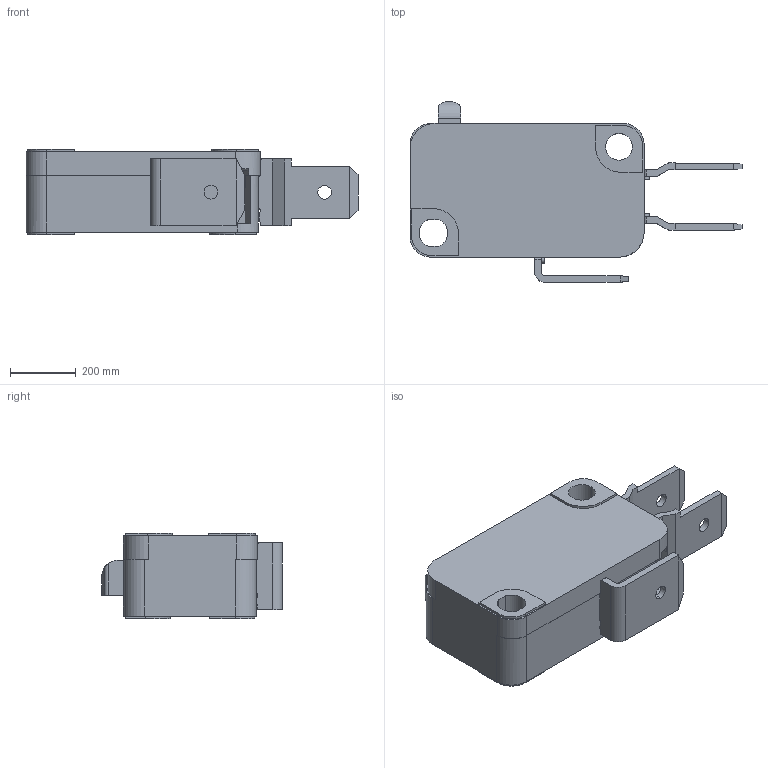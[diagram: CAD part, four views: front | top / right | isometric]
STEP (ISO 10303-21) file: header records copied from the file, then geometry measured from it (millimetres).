
FILE_DESCRIPTION((''),'2;1');
FILE_NAME('ASM0001_ASM','2016-06-02T',('Administrator'),(''),'PRO/ENGINEER BY PARAMETRIC TECHNOLOGY CORPORATION, 2012360','PRO/ENGINEER BY PARAMETRIC TECHNOLOGY CORPORATION, 2012360','');
FILE_SCHEMA(('CONFIG_CONTROL_DESIGN'));
Length unit declared in the file: inch
Products named in the file (1): ASM0001_ASM
Bounding box: 1008.38 x 548.72 x 259.08 mm (x, y, z)
Volume: 61359306.8 mm3; surface area: 2630821.4 mm2
Topology: 1 solids, 6 shells, 484 faces, 1364 edges, 891 vertices
Faces by surface type: plane 390, cylinder 86, torus 4, cone 4
Entity records: 15659 total; most frequent: CARTESIAN_POINT 2952, ORIENTED_EDGE 2728, DIRECTION 2497, EDGE_CURVE 1364, VECTOR 1133, LINE 1133, VERTEX_POINT 891, AXIS2_PLACEMENT_3D 682
